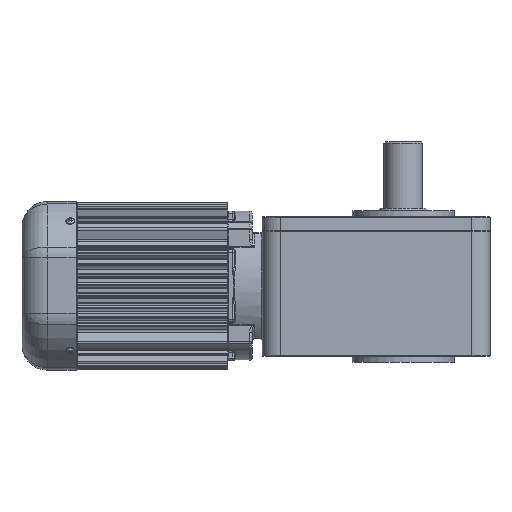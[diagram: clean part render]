
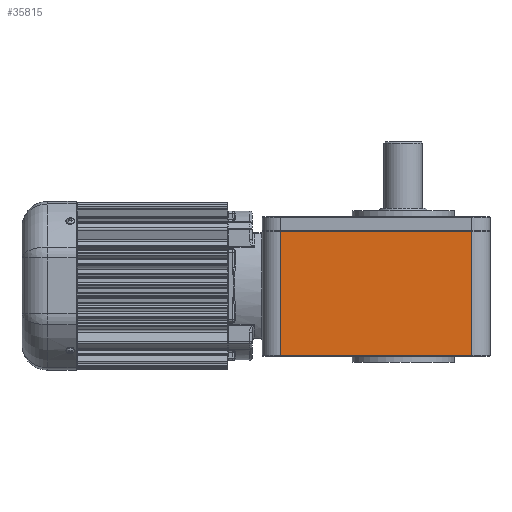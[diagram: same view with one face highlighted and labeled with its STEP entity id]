
A CAD part, front view. The second image highlights one B-rep face of the part: STEP entity #35815.
In plain terms, the highlighted planar face has unit normal (0, -1, 0).
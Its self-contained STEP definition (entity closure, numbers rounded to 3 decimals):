
#2526=LINE('',#60764,#4959);
#2600=LINE('',#61233,#5033);
#2607=LINE('',#61266,#5040);
#2608=LINE('',#61268,#5041);
#4959=VECTOR('',#48009,159.);
#5033=VECTOR('',#48485,159.);
#5040=VECTOR('',#48524,103.);
#5041=VECTOR('',#48527,103.);
#8091=FACE_OUTER_BOUND('',#10225,.T.);
#10225=EDGE_LOOP('',(#28856,#28857,#28858,#28859));
#15392=VERTEX_POINT('',#60761);
#15393=VERTEX_POINT('',#60763);
#15506=VERTEX_POINT('',#61193);
#15515=VERTEX_POINT('',#61231);
#19891=EDGE_CURVE('',#15392,#15393,#2526,.T.);
#20089=EDGE_CURVE('',#15515,#15506,#2600,.T.);
#20106=EDGE_CURVE('',#15392,#15506,#2607,.T.);
#20107=EDGE_CURVE('',#15393,#15515,#2608,.T.);
#28856=ORIENTED_EDGE('',*,*,#20089,.F.);
#28857=ORIENTED_EDGE('',*,*,#20107,.F.);
#28858=ORIENTED_EDGE('',*,*,#19891,.F.);
#28859=ORIENTED_EDGE('',*,*,#20106,.T.);
#32213=PLANE('',#39502);
#35815=ADVANCED_FACE('',(#8091),#32213,.T.);
#39502=AXIS2_PLACEMENT_3D('',#61267,#48525,#48526);
#48009=DIRECTION('',(1.,0.,0.));
#48485=DIRECTION('',(-1.,0.,0.));
#48524=DIRECTION('',(0.,0.,-1.));
#48525=DIRECTION('center_axis',(0.,-1.,0.));
#48526=DIRECTION('ref_axis',(0.,0.,-1.));
#48527=DIRECTION('',(0.,0.,-1.));
#60761=CARTESIAN_POINT('',(-102.,-104.,45.5));
#60763=CARTESIAN_POINT('',(57.,-104.,45.5));
#60764=CARTESIAN_POINT('',(-102.,-104.,45.5));
#61193=CARTESIAN_POINT('',(-102.,-104.,-57.5));
#61231=CARTESIAN_POINT('',(57.,-104.,-57.5));
#61233=CARTESIAN_POINT('',(57.,-104.,-57.5));
#61266=CARTESIAN_POINT('',(-102.,-104.,45.5));
#61267=CARTESIAN_POINT('Origin',(57.,-104.,0.));
#61268=CARTESIAN_POINT('',(57.,-104.,45.5));
